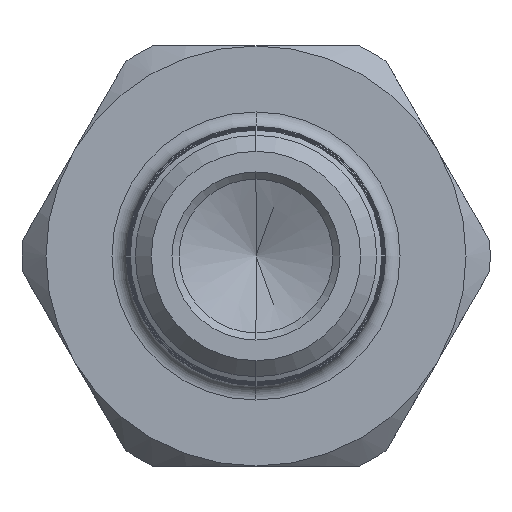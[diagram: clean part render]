
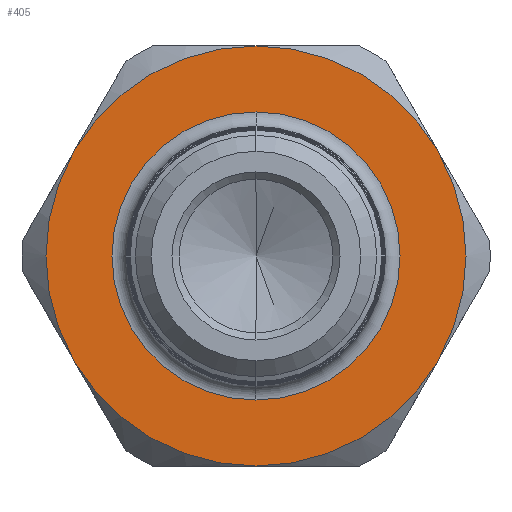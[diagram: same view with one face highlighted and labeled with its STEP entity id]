
A CAD part, left-side view. The second image highlights one B-rep face of the part: STEP entity #405.
In plain terms, the highlighted planar face has unit normal (-1, 0, 0).
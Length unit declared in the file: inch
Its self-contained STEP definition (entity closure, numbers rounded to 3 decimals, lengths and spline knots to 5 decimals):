
#341 = DIRECTION ( 'NONE',  ( -1., 0., 0. ) ) ;
#405 = ADVANCED_FACE ( 'NONE', ( #15173, #2441 ), #16707, .T. ) ;
#1125 = ORIENTED_EDGE ( 'NONE', *, *, #8607, .T. ) ;
#1162 = CIRCLE ( 'NONE', #12818, 0.4375 ) ;
#1168 = DIRECTION ( 'NONE',  ( 0., 0., 1. ) ) ;
#1349 = CARTESIAN_POINT ( 'NONE',  ( 0.585, 0., 0. ) ) ;
#1555 = EDGE_CURVE ( 'NONE', #6743, #15327, #9270, .T. ) ;
#1721 = CIRCLE ( 'NONE', #5524, 0.3 ) ;
#2374 = VERTEX_POINT ( 'NONE', #5829 ) ;
#2441 = FACE_OUTER_BOUND ( 'NONE', #12688, .T. ) ;
#3063 = CARTESIAN_POINT ( 'NONE',  ( 0.585, -0.37889, -0.21875 ) ) ;
#3203 = AXIS2_PLACEMENT_3D ( 'NONE', #7627, #3549, #1168 ) ;
#3361 = VERTEX_POINT ( 'NONE', #7833 ) ;
#3549 = DIRECTION ( 'NONE',  ( -1., 0., 0. ) ) ;
#3882 = CIRCLE ( 'NONE', #6852, 0.4375 ) ;
#4414 = CIRCLE ( 'NONE', #16335, 0.3 ) ;
#4616 = ORIENTED_EDGE ( 'NONE', *, *, #1555, .T. ) ;
#4781 = DIRECTION ( 'NONE',  ( -1., 0., 0. ) ) ;
#4808 = EDGE_LOOP ( 'NONE', ( #9822, #7469 ) ) ;
#5057 = DIRECTION ( 'NONE',  ( 0., 0., 1. ) ) ;
#5158 = AXIS2_PLACEMENT_3D ( 'NONE', #14036, #8566, #5057 ) ;
#5355 = DIRECTION ( 'NONE',  ( 1., 0., 0. ) ) ;
#5524 = AXIS2_PLACEMENT_3D ( 'NONE', #10661, #7952, #9461 ) ;
#5748 = CIRCLE ( 'NONE', #6296, 0.4375 ) ;
#5829 = CARTESIAN_POINT ( 'NONE',  ( 0.585, 0., 0.3 ) ) ;
#5880 = CARTESIAN_POINT ( 'NONE',  ( 0.585, 0., 0. ) ) ;
#5896 = EDGE_CURVE ( 'NONE', #13276, #3361, #5748, .T. ) ;
#5974 = CARTESIAN_POINT ( 'NONE',  ( 0.585, 0., -0.3 ) ) ;
#6296 = AXIS2_PLACEMENT_3D ( 'NONE', #5880, #4781, #16564 ) ;
#6743 = VERTEX_POINT ( 'NONE', #10646 ) ;
#6852 = AXIS2_PLACEMENT_3D ( 'NONE', #13168, #341, #10625 ) ;
#7469 = ORIENTED_EDGE ( 'NONE', *, *, #9282, .T. ) ;
#7627 = CARTESIAN_POINT ( 'NONE',  ( 0.585, 0., 0. ) ) ;
#7833 = CARTESIAN_POINT ( 'NONE',  ( 0.585, 0., -0.4375 ) ) ;
#7952 = DIRECTION ( 'NONE',  ( 1., 0., 0. ) ) ;
#7993 = CARTESIAN_POINT ( 'NONE',  ( 0.585, 0., 0. ) ) ;
#8063 = CARTESIAN_POINT ( 'NONE',  ( 0.585, 0., 0. ) ) ;
#8566 = DIRECTION ( 'NONE',  ( -1., 0., 0. ) ) ;
#8607 = EDGE_CURVE ( 'NONE', #15327, #13276, #3882, .T. ) ;
#8833 = DIRECTION ( 'NONE',  ( -1., 0., 0. ) ) ;
#9013 = EDGE_CURVE ( 'NONE', #12568, #14777, #13914, .T. ) ;
#9270 = CIRCLE ( 'NONE', #11967, 0.4375 ) ;
#9282 = EDGE_CURVE ( 'NONE', #9435, #2374, #1721, .T. ) ;
#9386 = CARTESIAN_POINT ( 'NONE',  ( 0.585, -0.37889, 0.21875 ) ) ;
#9402 = ORIENTED_EDGE ( 'NONE', *, *, #11262, .T. ) ;
#9435 = VERTEX_POINT ( 'NONE', #5974 ) ;
#9461 = DIRECTION ( 'NONE',  ( 0., 0., 1. ) ) ;
#9654 = CARTESIAN_POINT ( 'NONE',  ( 0.585, 0.37889, 0.21875 ) ) ;
#9822 = ORIENTED_EDGE ( 'NONE', *, *, #11090, .T. ) ;
#10303 = CIRCLE ( 'NONE', #5158, 0.4375 ) ;
#10490 = ORIENTED_EDGE ( 'NONE', *, *, #16690, .T. ) ;
#10625 = DIRECTION ( 'NONE',  ( 0., 0., 1. ) ) ;
#10646 = CARTESIAN_POINT ( 'NONE',  ( 0.585, 0., 0.4375 ) ) ;
#10661 = CARTESIAN_POINT ( 'NONE',  ( 0.585, 0., 0. ) ) ;
#10699 = DIRECTION ( 'NONE',  ( 0., 0., 1. ) ) ;
#10702 = DIRECTION ( 'NONE',  ( -1., 0., 0. ) ) ;
#11090 = EDGE_CURVE ( 'NONE', #2374, #9435, #4414, .T. ) ;
#11262 = EDGE_CURVE ( 'NONE', #14777, #6743, #1162, .T. ) ;
#11967 = AXIS2_PLACEMENT_3D ( 'NONE', #7993, #10702, #13155 ) ;
#12568 = VERTEX_POINT ( 'NONE', #3063 ) ;
#12688 = EDGE_LOOP ( 'NONE', ( #10490, #13444, #9402, #4616, #1125, #14702 ) ) ;
#12818 = AXIS2_PLACEMENT_3D ( 'NONE', #15351, #8833, #13994 ) ;
#13155 = DIRECTION ( 'NONE',  ( 0., 0., 1. ) ) ;
#13168 = CARTESIAN_POINT ( 'NONE',  ( 0.585, 0., 0. ) ) ;
#13276 = VERTEX_POINT ( 'NONE', #14519 ) ;
#13444 = ORIENTED_EDGE ( 'NONE', *, *, #9013, .T. ) ;
#13914 = CIRCLE ( 'NONE', #16085, 0.4375 ) ;
#13994 = DIRECTION ( 'NONE',  ( 0., 0., 1. ) ) ;
#14036 = CARTESIAN_POINT ( 'NONE',  ( 0.585, 0., 0. ) ) ;
#14426 = DIRECTION ( 'NONE',  ( 0., 0., 1. ) ) ;
#14519 = CARTESIAN_POINT ( 'NONE',  ( 0.585, 0.37889, -0.21875 ) ) ;
#14702 = ORIENTED_EDGE ( 'NONE', *, *, #5896, .T. ) ;
#14777 = VERTEX_POINT ( 'NONE', #9386 ) ;
#15173 = FACE_BOUND ( 'NONE', #4808, .T. ) ;
#15327 = VERTEX_POINT ( 'NONE', #9654 ) ;
#15351 = CARTESIAN_POINT ( 'NONE',  ( 0.585, 0., 0. ) ) ;
#15869 = DIRECTION ( 'NONE',  ( -1., 0., 0. ) ) ;
#16085 = AXIS2_PLACEMENT_3D ( 'NONE', #8063, #15869, #10699 ) ;
#16335 = AXIS2_PLACEMENT_3D ( 'NONE', #1349, #5355, #14426 ) ;
#16564 = DIRECTION ( 'NONE',  ( 0., 0., 1. ) ) ;
#16690 = EDGE_CURVE ( 'NONE', #3361, #12568, #10303, .T. ) ;
#16707 = PLANE ( 'NONE',  #3203 ) ;
